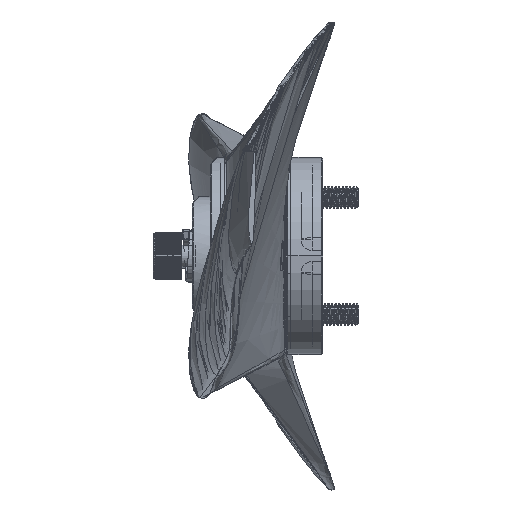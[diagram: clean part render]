
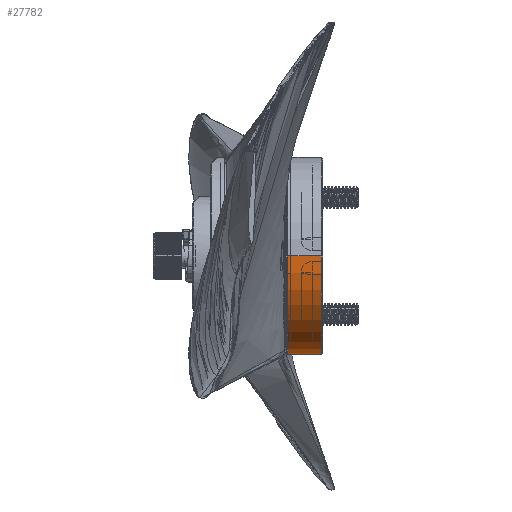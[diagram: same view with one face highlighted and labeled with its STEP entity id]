
A CAD part, left-side view. The second image highlights one B-rep face of the part: STEP entity #27782.
In plain terms, the highlighted cylindrical face has radius 27.5 mm (diameter 55 mm), a partial arc.
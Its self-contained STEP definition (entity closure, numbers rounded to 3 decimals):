
#2587 = ORIENTED_EDGE ( 'NONE', *, *, #39419, .T. ) ;
#3877 = ORIENTED_EDGE ( 'NONE', *, *, #49556, .T. ) ;
#4140 = CARTESIAN_POINT ( 'NONE',  ( -52.5, 27.5, 0. ) ) ;
#8756 = CARTESIAN_POINT ( 'NONE',  ( -80., 0., -0.3 ) ) ;
#11328 = LINE ( 'NONE', #4140, #37586 ) ;
#14759 = CARTESIAN_POINT ( 'NONE',  ( -52.5, 0., 0. ) ) ;
#17788 = EDGE_CURVE ( 'NONE', #58418, #47956, #45730, .T. ) ;
#18052 = VECTOR ( 'NONE', #75172, 1000. ) ;
#20063 = AXIS2_PLACEMENT_3D ( 'NONE', #14759, #75271, #28126 ) ;
#27782 = ADVANCED_FACE ( 'NONE', ( #30153 ), #61404, .T. ) ;
#28126 = DIRECTION ( 'NONE',  ( -1., 0., 0. ) ) ;
#28545 = CARTESIAN_POINT ( 'NONE',  ( -80., 0., 0. ) ) ;
#30153 = FACE_OUTER_BOUND ( 'NONE', #77134, .T. ) ;
#32853 = DIRECTION ( 'NONE',  ( 0., 0., -1. ) ) ;
#37586 = VECTOR ( 'NONE', #66152, 1000. ) ;
#39148 = DIRECTION ( 'NONE',  ( 1., 0., 0. ) ) ;
#39419 = EDGE_CURVE ( 'NONE', #54977, #53818, #51652, .T. ) ;
#45730 = CIRCLE ( 'NONE', #93234, 27.5 ) ;
#47956 = VERTEX_POINT ( 'NONE', #67411 ) ;
#49556 = EDGE_CURVE ( 'NONE', #53818, #58418, #11328, .T. ) ;
#51652 = CIRCLE ( 'NONE', #61463, 27.5 ) ;
#52164 = ORIENTED_EDGE ( 'NONE', *, *, #17788, .T. ) ;
#53818 = VERTEX_POINT ( 'NONE', #101105 ) ;
#54977 = VERTEX_POINT ( 'NONE', #8756 ) ;
#56567 = DIRECTION ( 'NONE',  ( 0., 0., 1. ) ) ;
#58418 = VERTEX_POINT ( 'NONE', #90148 ) ;
#61404 = CYLINDRICAL_SURFACE ( 'NONE', #20063, 27.5 ) ;
#61463 = AXIS2_PLACEMENT_3D ( 'NONE', #86154, #32853, #62589 ) ;
#61911 = EDGE_CURVE ( 'NONE', #54977, #47956, #83368, .T. ) ;
#62589 = DIRECTION ( 'NONE',  ( 1., 0., 0. ) ) ;
#66152 = DIRECTION ( 'NONE',  ( 0., 0., -1. ) ) ;
#67411 = CARTESIAN_POINT ( 'NONE',  ( -80., 0., -9.5 ) ) ;
#73286 = ORIENTED_EDGE ( 'NONE', *, *, #61911, .F. ) ;
#75172 = DIRECTION ( 'NONE',  ( 0., 0., -1. ) ) ;
#75271 = DIRECTION ( 'NONE',  ( 0., 0., -1. ) ) ;
#77134 = EDGE_LOOP ( 'NONE', ( #73286, #2587, #3877, #52164 ) ) ;
#83368 = LINE ( 'NONE', #28545, #18052 ) ;
#86154 = CARTESIAN_POINT ( 'NONE',  ( -52.5, 0., -0.3 ) ) ;
#86300 = CARTESIAN_POINT ( 'NONE',  ( -52.5, 0., -9.5 ) ) ;
#90148 = CARTESIAN_POINT ( 'NONE',  ( -52.5, 27.5, -9.5 ) ) ;
#93234 = AXIS2_PLACEMENT_3D ( 'NONE', #86300, #56567, #39148 ) ;
#101105 = CARTESIAN_POINT ( 'NONE',  ( -52.5, 27.5, -0.3 ) ) ;
